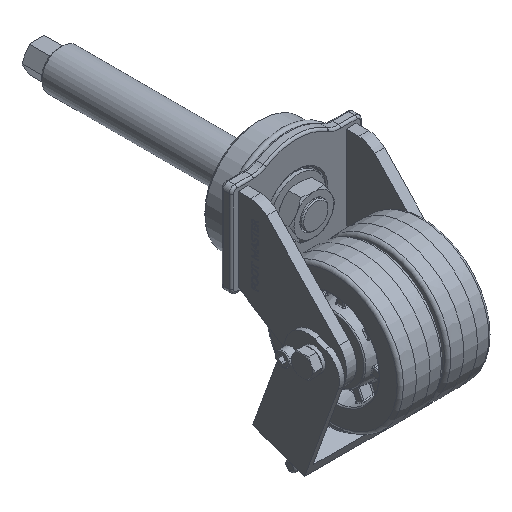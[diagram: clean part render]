
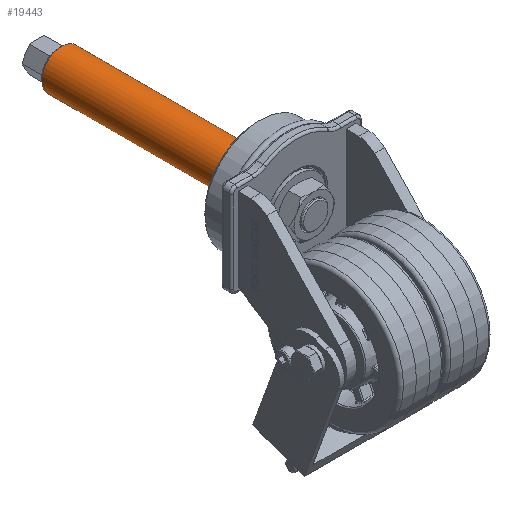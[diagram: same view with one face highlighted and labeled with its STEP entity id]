
A CAD part, isometric view. The second image highlights one B-rep face of the part: STEP entity #19443.
In plain terms, the highlighted cylindrical face has radius 18 mm (diameter 36 mm), a full revolution.
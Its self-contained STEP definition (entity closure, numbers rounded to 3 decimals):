
#1351=CYLINDRICAL_SURFACE('',#20798,18.);
#2099=FACE_OUTER_BOUND('',#3410,.T.);
#3410=EDGE_LOOP('',(#13239,#13240,#13241,#13242));
#4783=LINE('',#28363,#5863);
#5863=VECTOR('',#23009,18.);
#6962=CIRCLE('',#20797,18.);
#6963=CIRCLE('',#20799,18.);
#8229=VERTEX_POINT('',#28358);
#8230=VERTEX_POINT('',#28362);
#10114=EDGE_CURVE('',#8229,#8229,#6962,.T.);
#10115=EDGE_CURVE('',#8229,#8230,#4783,.T.);
#10116=EDGE_CURVE('',#8230,#8230,#6963,.T.);
#13239=ORIENTED_EDGE('',*,*,#10114,.F.);
#13240=ORIENTED_EDGE('',*,*,#10115,.T.);
#13241=ORIENTED_EDGE('',*,*,#10116,.F.);
#13242=ORIENTED_EDGE('',*,*,#10115,.F.);
#19443=ADVANCED_FACE('',(#2099),#1351,.T.);
#20797=AXIS2_PLACEMENT_3D('',#28360,#23005,#23006);
#20798=AXIS2_PLACEMENT_3D('',#28361,#23007,#23008);
#20799=AXIS2_PLACEMENT_3D('',#28364,#23010,#23011);
#23005=DIRECTION('center_axis',(0.,1.,0.));
#23006=DIRECTION('ref_axis',(1.,0.,0.));
#23007=DIRECTION('center_axis',(0.,1.,0.));
#23008=DIRECTION('ref_axis',(1.,0.,0.));
#23009=DIRECTION('',(0.,-1.,0.));
#23010=DIRECTION('center_axis',(0.,-1.,0.));
#23011=DIRECTION('ref_axis',(1.,0.,0.));
#28358=CARTESIAN_POINT('',(-18.,177.,0.));
#28360=CARTESIAN_POINT('Origin',(0.,177.,0.));
#28361=CARTESIAN_POINT('Origin',(0.,6.,0.));
#28362=CARTESIAN_POINT('',(-18.,6.,0.));
#28363=CARTESIAN_POINT('',(-18.,6.,0.));
#28364=CARTESIAN_POINT('Origin',(0.,6.,0.));
